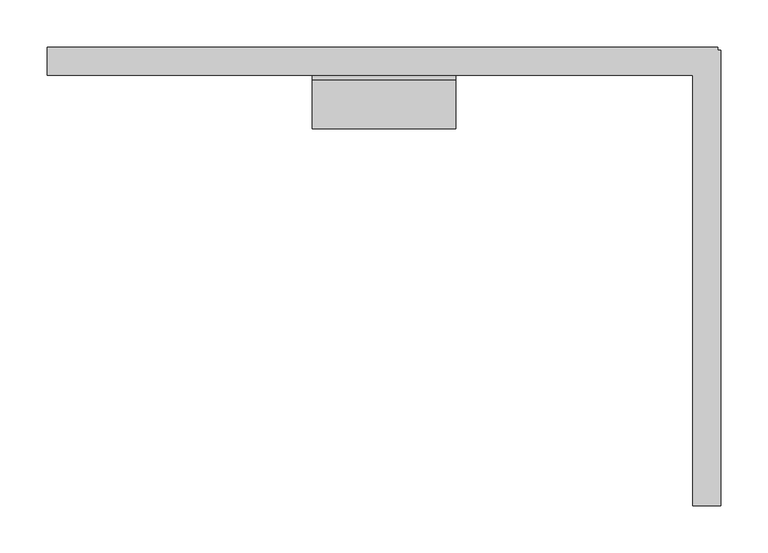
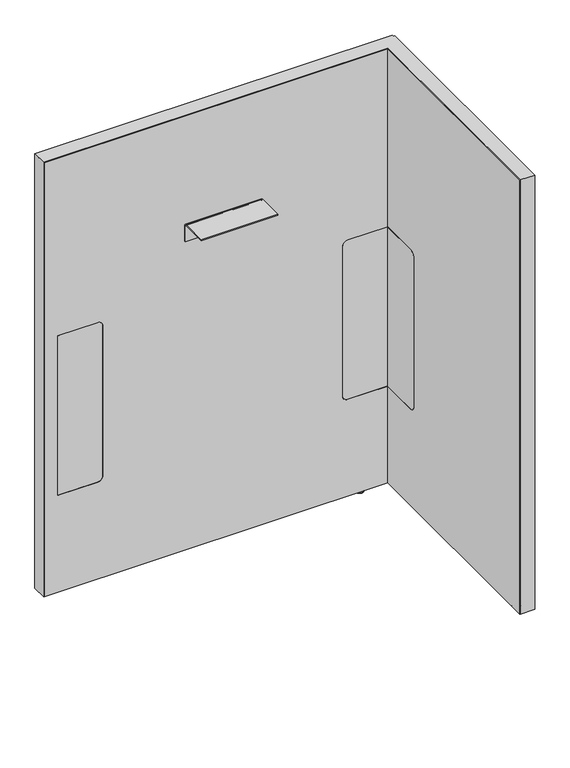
"""IFC4 building model written with IfcOpenShell, lengths in millimetres: furniture geometry, Steelcase - Answer Solution - Boundary Screen - L Return - Single Sided : 36H x 27W."""

from ifc_helpers import new_model, si_unit, point, frame, frame_2d, origin, place, context, project, spatial, polyline, circle_curve, ellipse_curve, trimmed, segment, composite_curve, outline, extrude, faceted_brep, source, transform, mapped, element, save
from ifc_brep_helpers import plane_surface, cylinder_surface, revolved_surface, advanced_brep


def furniture_8f06d528(model_context):
    return source(origin(), model_context, "Body", "SolidModel", [
        extrude(outline(composite_curve([segment(polyline([(-109.3501471, 549.6162029), (-29.0550397, 549.6162029), (-29.0550397, 213.7762137), (-109.3501471, 213.7762137)]), True, "CONTINUOUS"), segment(trimmed(circle_curve(frame_2d((-109.3501471, 223.9362137)), 10.16), [point((-109.3501471, 213.7762137))], [point((-119.5101471, 223.9362137))], False, "CARTESIAN"), True, "CONTINUOUS"), segment(polyline([(-119.5101471, 223.9362137), (-119.5101471, 539.4562029)]), True, "CONTINUOUS"), segment(trimmed(circle_curve(frame_2d((-109.3501471, 539.4562029)), 10.16), [point((-119.5101471, 539.4562029))], [point((-109.3501471, 549.6162029))], False, "CARTESIAN"), True, "CONTINUOUS")], self_intersect=False)), frame((915.6191891, 0.0, 0.0), z_axis=(1.0, 0.0, 0.0), x_axis=(0.0, 1.0, 0.0)), (0.0, 0.0, 1.0), 0.6401544),
        advanced_brep(
        [(930.4672074, -448.0136072, 0.0), (937.4216144, -448.0136072, 0.0), (923.5128003, -448.0136072, 0.0), (938.8762685, -448.0136072, 1.2700001), (922.0581463, -448.0136072, 1.2700001), (938.8762685, -448.0136072, 2.9673238), (922.0581463, -448.0136072, 2.9673238), (939.8427877, -448.0136072, 2.9673238), (921.091627, -448.0136072, 2.9673238), (939.8427877, -448.0136072, 9.9059849), (921.091627, -448.0136072, 9.9059849), (930.4672074, -448.0136072, 9.9059849)],
        [
            (0, 1),
            (1, 2, circle_curve(frame((930.4672074, -448.0136072, 0.0), z_axis=(0.0, 0.0, -1.0), x_axis=(1.0, 0.0, 0.0)), 6.9544071)),
            (2, 0),
            (2, 1, circle_curve(frame((930.4672074, -448.0136072, 0.0), z_axis=(0.0, 0.0, -1.0), x_axis=(1.0, 0.0, 0.0)), 6.9544071)),
            (1, 3, circle_curve(frame((937.5945484, -448.0136072, 1.2700001), z_axis=(0.0, -1.0, 0.0), x_axis=(0.0, 0.0, 1.0)), 1.2817201)),
            (3, 4, circle_curve(frame((930.4672074, -448.0136072, 1.2700001), z_axis=(0.0, 0.0, -1.0), x_axis=(1.0, 0.0, 0.0)), 8.4090611)),
            (4, 2, circle_curve(frame((923.3398663, -448.0136072, 1.2700001), z_axis=(0.0, -1.0, 0.0), x_axis=(0.0, 0.0, 1.0)), 1.2817201)),
            (4, 3, circle_curve(frame((930.4672074, -448.0136072, 1.2700001), z_axis=(0.0, 0.0, -1.0), x_axis=(1.0, 0.0, 0.0)), 8.4090611)),
            (3, 5),
            (5, 6, circle_curve(frame((930.4672074, -448.0136072, 2.9673238), z_axis=(0.0, 0.0, -1.0), x_axis=(1.0, 0.0, 0.0)), 8.4090611)),
            (6, 4),
            (6, 5, circle_curve(frame((930.4672074, -448.0136072, 2.9673238), z_axis=(0.0, 0.0, -1.0), x_axis=(1.0, 0.0, 0.0)), 8.4090611)),
            (5, 7),
            (7, 8, circle_curve(frame((930.4672074, -448.0136072, 2.9673238), z_axis=(0.0, 0.0, -1.0), x_axis=(1.0, 0.0, 0.0)), 9.3755804)),
            (8, 6),
            (8, 7, circle_curve(frame((930.4672074, -448.0136072, 2.9673238), z_axis=(0.0, 0.0, -1.0), x_axis=(1.0, 0.0, 0.0)), 9.3755804)),
            (7, 9),
            (9, 10, circle_curve(frame((930.4672074, -448.0136072, 9.9059849), z_axis=(0.0, 0.0, -1.0), x_axis=(1.0, 0.0, 0.0)), 9.3755804)),
            (10, 8),
            (10, 9, circle_curve(frame((930.4672074, -448.0136072, 9.9059849), z_axis=(0.0, 0.0, -1.0), x_axis=(1.0, 0.0, 0.0)), 9.3755804)),
            (9, 11),
            (11, 10),
        ],
        [
            plane_surface(frame((930.4672074, -448.0136072, 0.0), z_axis=(0.0, 0.0, -1.0), x_axis=(1.0, 0.0, 0.0))),
            revolved_surface(trimmed(ellipse_curve(frame((937.5945484, -448.0136072, 1.2700001), z_axis=(0.0, 1.0, 0.0), x_axis=(0.0, 0.0, 1.0)), 1.2817201, 1.2817201), [point((938.8762685, -448.0136072, 1.2700001))], [point((937.4216144, -448.0136072, 0.0))], True, "CARTESIAN"), (930.4672074, -448.0136072, 9.9059849), (0.0, 0.0, -1.0)),
            cylinder_surface(frame((930.4672074, -448.0136072, 9.9059849), z_axis=(0.0, 0.0, -1.0), x_axis=(1.0, 0.0, 0.0)), 8.4090611),
            plane_surface(frame((930.4672074, -448.0136072, 2.9673238), z_axis=(0.0, 0.0, -1.0), x_axis=(1.0, 0.0, 0.0))),
            cylinder_surface(frame((930.4672074, -448.0136072, 9.9059849), z_axis=(0.0, 0.0, -1.0), x_axis=(1.0, 0.0, 0.0)), 9.3755804),
            plane_surface(frame((930.4672074, -448.0136072, 9.9059849), z_axis=(0.0, 0.0, 1.0), x_axis=(1.0, 0.0, 0.0))),
        ],
        [
            (0, [[1, 2, 3]]),
            (0, [[-3, 4, -1]]),
            (1, [[-2, 5, 6, 7]]),
            (1, [[-4, -7, 8, -5]]),
            (2, [[-6, 9, 10, 11]]),
            (2, [[-8, -11, 12, -9]]),
            (3, [[-10, 13, 14, 15]]),
            (3, [[-12, -15, 16, -13]]),
            (4, [[-14, 17, 18, 19]]),
            (4, [[-16, -19, 20, -17]]),
            (5, [[-18, 21, 22]]),
            (5, [[-20, -22, -21]]),
        ],
    ),
        faceted_brep([(942.0531179, 0.0, 925.322), (942.0531179, 0.0, 9.9059849), (941.0621491, 0.0, 9.9059849), (941.0621491, 0.0, 924.342118), (230.8097779, 0.0, 924.342118), (230.8097779, 0.0, 9.9059849), (229.8191891, 0.0, 9.9059849), (229.8191891, 0.0, 925.322), (229.8191891, -29.6898332, 925.322), (229.8191891, -29.6898332, 9.9059849), (230.8097779, -29.6898332, 9.9059849), (230.8097779, -29.6898332, 924.342118), (915.6191891, -29.6898332, 924.342118), (915.6191891, -29.6898332, 925.322), (941.0621491, -29.6898332, 924.342118), (941.0621491, -29.6898332, 9.9059849), (942.0531179, -29.6898332, 9.9059849), (942.0531179, -29.6898332, 924.342118), (942.0531179, -3.2625916, 925.322), (942.0531179, -3.2625916, 9.9059849), (942.0531179, -4.252647, 9.9059849), (942.0531179, -4.252647, 924.342118), (945.3152256, -3.2625916, 9.9059849), (945.3152256, -4.252647, 9.9059849), (941.0621491, -4.252647, 9.9059849), (915.6191891, -4.252647, 9.9059849), (915.6191891, -3.2625916, 9.9059849), (941.0621491, -3.2625916, 9.9059849), (915.6191891, -486.8898332, 925.322), (945.3152256, -486.8898332, 925.322), (945.3152256, -3.2625916, 925.322), (941.0621491, -3.2625916, 924.342118), (941.0621491, -4.252647, 924.342118), (915.6191891, -3.2625916, 924.342118), (915.6191891, -4.252647, 924.342118), (945.3152256, -4.252647, 924.342118), (945.3152256, -485.899196, 924.342118), (915.6191891, -485.899196, 924.342118), (915.6191891, -485.899196, 9.9059849), (915.6191891, -486.8898332, 9.9059849), (945.3152256, -486.8898332, 9.9059849), (945.3152256, -485.899196, 9.9059849)], [[[0, 1, 2, 3, 4, 5, 6, 7]], [[8, 9, 10, 11, 12, 13]], [[14, 15, 16, 17]], [[1, 0, 18, 19]], [[17, 16, 20, 21]], [[2, 1, 19, 22, 23, 20, 16, 15, 24, 25, 26, 27]], [[7, 6, 9, 8]], [[0, 7, 8, 13, 28, 29, 30, 18]], [[3, 2, 27, 31]], [[15, 14, 32, 24]], [[4, 3, 31, 33, 34, 32, 14, 17, 21, 35, 36, 37, 12, 11]], [[5, 4, 11, 10]], [[6, 5, 10, 9]], [[26, 25, 34, 33]], [[37, 38, 39, 28, 13, 12]], [[29, 40, 41, 36, 35, 23, 22, 30]], [[27, 26, 33, 31]], [[30, 22, 19, 18]], [[34, 25, 24, 32]], [[23, 35, 21, 20]], [[38, 37, 36, 41]], [[39, 38, 41, 40]], [[28, 39, 40, 29]]]),
        extrude(outline(composite_curve([segment(polyline([(-86.8398151, 696.4680019), (-86.8398151, 698.5), (-34.9450855, 698.5)]), True, "CONTINUOUS"), segment(trimmed(circle_curve(frame_2d((-34.9450855, 693.2447477)), 5.2552523), [point((-34.9450855, 698.5))], [point((-29.6898332, 693.2447477))], False, "CARTESIAN"), True, "CONTINUOUS"), segment(polyline([(-29.6898332, 693.2447477), (-29.6898332, 660.4), (-31.7218162, 660.4), (-31.7218162, 693.0058743)]), True, "CONTINUOUS"), segment(trimmed(circle_curve(frame_2d((-35.1839438, 693.0058743)), 3.4621276), [point((-31.7218162, 693.0058743))], [point((-35.1839438, 696.4680019))], True, "CARTESIAN"), True, "CONTINUOUS"), segment(polyline([(-35.1839438, 696.4680019), (-86.8398151, 696.4680019)]), True, "CONTINUOUS")], self_intersect=False)), frame((511.3685899, 0.0, 0.0), z_axis=(1.0, 0.0, 0.0), x_axis=(0.0, 1.0, 0.0)), (0.0, 0.0, 1.0), 152.4000969),
        advanced_brep(
        [(868.1246853, -23.7588726, 9.9059849), (868.1246853, -5.9309607, 9.9059849), (868.1246853, -14.8449166, 9.9059849), (868.1246853, -23.7588726, 2.9673238), (868.1246853, -5.9309607, 2.9673238), (868.1246853, -22.7915354, 2.9673238), (868.1246853, -6.8982978, 2.9673238), (868.1246853, -22.7915354, 1.6569081), (868.1246853, -6.8982978, 1.6569081), (868.1246853, -21.1346274, 0.0), (868.1246853, -8.5552059, 0.0), (868.1246853, -14.8449166, 0.0)],
        [
            (0, 1, circle_curve(frame((868.1246853, -14.8449166, 9.9059849), z_axis=(0.0, 0.0, 1.0), x_axis=(0.0, 1.0, 0.0)), 8.913956)),
            (1, 2),
            (2, 0),
            (1, 0, circle_curve(frame((868.1246853, -14.8449166, 9.9059849), z_axis=(0.0, 0.0, 1.0), x_axis=(0.0, 1.0, 0.0)), 8.913956)),
            (3, 4, circle_curve(frame((868.1246853, -14.8449166, 2.9673238), z_axis=(0.0, 0.0, 1.0), x_axis=(0.0, 1.0, 0.0)), 8.913956)),
            (4, 1),
            (0, 3),
            (4, 3, circle_curve(frame((868.1246853, -14.8449166, 2.9673238), z_axis=(0.0, 0.0, 1.0), x_axis=(0.0, 1.0, 0.0)), 8.913956)),
            (5, 6, circle_curve(frame((868.1246853, -14.8449166, 2.9673238), z_axis=(0.0, 0.0, 1.0), x_axis=(0.0, 1.0, 0.0)), 7.9466188)),
            (6, 4),
            (3, 5),
            (6, 5, circle_curve(frame((868.1246853, -14.8449166, 2.9673238), z_axis=(0.0, 0.0, 1.0), x_axis=(0.0, 1.0, 0.0)), 7.9466188)),
            (7, 8, circle_curve(frame((868.1246853, -14.8449166, 1.6569081), z_axis=(0.0, 0.0, 1.0), x_axis=(0.0, 1.0, 0.0)), 7.9466188)),
            (8, 6),
            (5, 7),
            (8, 7, circle_curve(frame((868.1246853, -14.8449166, 1.6569081), z_axis=(0.0, 0.0, 1.0), x_axis=(0.0, 1.0, 0.0)), 7.9466188)),
            (9, 10, circle_curve(frame((868.1246853, -14.8449166, 0.0), z_axis=(0.0, 0.0, 1.0), x_axis=(0.0, 1.0, 0.0)), 6.2897107)),
            (10, 8, circle_curve(frame((868.1246853, -8.5552059, 1.6569081), z_axis=(1.0, 0.0, 0.0), x_axis=(0.0, 1.0, 0.0)), 1.6569081)),
            (7, 9, circle_curve(frame((868.1246853, -21.1346274, 1.6569081), z_axis=(1.0, 0.0, 0.0), x_axis=(0.0, -1.0, 0.0)), 1.6569081)),
            (10, 9, circle_curve(frame((868.1246853, -14.8449166, 0.0), z_axis=(0.0, 0.0, 1.0), x_axis=(0.0, 1.0, 0.0)), 6.2897107)),
            (11, 10),
            (9, 11),
        ],
        [
            plane_surface(frame((868.1246853, -14.8449166, 9.9059849), z_axis=(0.0, 0.0, 1.0), x_axis=(0.0, 1.0, 0.0))),
            cylinder_surface(frame((868.1246853, -14.8449166, 9.9059849), z_axis=(0.0, 0.0, -1.0), x_axis=(0.0, 1.0, 0.0)), 8.913956),
            plane_surface(frame((868.1246853, -14.8449166, 2.9673238), z_axis=(0.0, 0.0, -1.0), x_axis=(0.0, 1.0, 0.0))),
            cylinder_surface(frame((868.1246853, -14.8449166, 9.9059849), z_axis=(0.0, 0.0, -1.0), x_axis=(0.0, 1.0, 0.0)), 7.9466188),
            revolved_surface(trimmed(ellipse_curve(frame((868.1246853, -8.5552059, 1.6569081), z_axis=(-1.0, 0.0, 0.0), x_axis=(0.0, 1.0, 0.0)), 1.6569081, 1.6569081), [point((868.1246853, -6.8982978, 1.6569081))], [point((868.1246853, -8.5552059, 0.0))], True, "CARTESIAN"), (868.1246853, -14.8449166, 9.9059849), (0.0, 0.0, -1.0)),
            plane_surface(frame((868.1246853, -14.8449166, 0.0), z_axis=(0.0, 0.0, -1.0), x_axis=(0.0, 1.0, 0.0))),
        ],
        [
            (0, [[1, 2, 3]]),
            (0, [[4, -3, -2]]),
            (1, [[5, 6, -1, 7]]),
            (1, [[8, -7, -4, -6]]),
            (2, [[9, 10, -5, 11]]),
            (2, [[12, -11, -8, -10]]),
            (3, [[13, 14, -9, 15]]),
            (3, [[16, -15, -12, -14]]),
            (4, [[17, 18, -13, 19]]),
            (4, [[20, -19, -16, -18]]),
            (5, [[21, -17, 22]]),
            (5, [[-22, -20, -21]]),
        ],
    ),
        advanced_brep(
        [(230.8097779, 0.0, 924.342118), (941.0621491, 0.0, 924.342118), (941.0621491, 0.0, 9.9059849), (230.8097779, 0.0, 9.9059849), (347.9483813, -29.0550397, 539.4562029), (337.7883813, -29.0550397, 549.6162029), (258.1344836, -29.0550397, 549.6162029), (258.1344836, -29.0550397, 213.7762137), (337.7883813, -29.0550397, 213.7762137), (347.9483813, -29.0550397, 223.9362137), (916.2593435, -29.0550397, 213.7762137), (916.2593435, -29.0550397, 549.6162029), (835.7109268, -29.0550397, 549.6162029), (825.5509268, -29.0550397, 539.4562029), (825.5509268, -29.0550397, 223.9362137), (835.7109268, -29.0550397, 213.7762137), (230.8097779, -29.6898332, 924.342118), (230.8097779, -29.6898332, 9.9059849), (915.6191891, -29.6898332, 9.9059849), (915.6191891, -29.6898332, 213.7762137), (835.7109268, -29.6898332, 213.7762137), (825.5509268, -29.6898332, 223.9362137), (825.5509268, -29.6898332, 539.4562029), (835.7109268, -29.6898332, 549.6162029), (915.6191891, -29.6898332, 549.6162029), (915.6191891, -29.6898332, 924.342118), (337.7883813, -29.6898332, 549.6162029), (347.9483813, -29.6898332, 539.4562029), (347.9483813, -29.6898332, 223.9362137), (337.7883813, -29.6898332, 213.7762137), (258.1344836, -29.6898332, 213.7762137), (258.1344836, -29.6898332, 549.6162029), (941.0621491, -4.252647, 9.9059849), (945.3152256, -4.252647, 9.9059849), (945.3152256, -485.899196, 9.9059849), (915.6191891, -485.899196, 9.9059849), (941.0621491, -4.252647, 924.342118), (915.6191891, -485.899196, 924.342118), (945.3152256, -485.899196, 924.342118), (945.3152256, -4.252647, 924.342118), (916.2593435, -109.3501471, 549.6162029), (915.6191891, -109.3501471, 549.6162029), (916.2593435, -109.3501471, 213.7762137), (916.2593435, -119.5101471, 223.9362137), (916.2593435, -119.5101471, 539.4562029), (915.6191891, -109.3501471, 213.7762137), (915.6191891, -119.5101471, 539.4562029), (915.6191891, -119.5101471, 223.9362137)],
        [
            (0, 1),
            (1, 2),
            (2, 3),
            (3, 0),
            (4, 5, circle_curve(frame((337.7883813, -29.0550397, 539.4562029), z_axis=(0.0, -1.0, 0.0), x_axis=(0.0, 0.0, 1.0)), 10.16)),
            (5, 6),
            (6, 7),
            (7, 8),
            (8, 9, circle_curve(frame((337.7883813, -29.0550397, 223.9362137), z_axis=(0.0, -1.0, 0.0), x_axis=(0.0, 0.0, 1.0)), 10.16)),
            (9, 4),
            (10, 11),
            (11, 12),
            (12, 13, circle_curve(frame((835.7109268, -29.0550397, 539.4562029), z_axis=(0.0, -1.0, 0.0), x_axis=(0.0, 0.0, 1.0)), 10.16)),
            (13, 14),
            (14, 15, circle_curve(frame((835.7109268, -29.0550397, 223.9362137), z_axis=(0.0, -1.0, 0.0), x_axis=(0.0, 0.0, 1.0)), 10.16)),
            (15, 10),
            (16, 17),
            (17, 18),
            (18, 19),
            (19, 20),
            (20, 21, circle_curve(frame((835.7109268, -29.6898332, 223.9362137), z_axis=(0.0, 1.0, 0.0), x_axis=(0.0, 0.0, 1.0)), 10.16)),
            (21, 22),
            (22, 23, circle_curve(frame((835.7109268, -29.6898332, 539.4562029), z_axis=(0.0, 1.0, 0.0), x_axis=(0.0, 0.0, 1.0)), 10.16)),
            (23, 24),
            (24, 25),
            (25, 16),
            (26, 27, circle_curve(frame((337.7883813, -29.6898332, 539.4562029), z_axis=(0.0, 1.0, 0.0), x_axis=(0.0, 0.0, 1.0)), 10.16)),
            (27, 28),
            (28, 29, circle_curve(frame((337.7883813, -29.6898332, 223.9362137), z_axis=(0.0, 1.0, 0.0), x_axis=(0.0, 0.0, 1.0)), 10.16)),
            (29, 30),
            (30, 31),
            (31, 26),
            (16, 0),
            (3, 17),
            (2, 32),
            (32, 33),
            (33, 34),
            (34, 35),
            (35, 18),
            (1, 36),
            (36, 32),
            (25, 37),
            (37, 38),
            (38, 39),
            (39, 36),
            (26, 5),
            (4, 27),
            (9, 28),
            (8, 29),
            (7, 30),
            (6, 31),
            (11, 40),
            (40, 41),
            (41, 24),
            (23, 12),
            (42, 43, circle_curve(frame((916.2593435, -109.3501471, 223.9362137), z_axis=(-1.0, 0.0, 0.0), x_axis=(0.0, 1.0, 0.0)), 10.16)),
            (43, 44),
            (44, 40, circle_curve(frame((916.2593435, -109.3501471, 539.4562029), z_axis=(-1.0, 0.0, 0.0), x_axis=(0.0, 1.0, 0.0)), 10.16)),
            (10, 42),
            (15, 20),
            (19, 45),
            (45, 42),
            (14, 21),
            (13, 22),
            (35, 37),
            (41, 46, circle_curve(frame((915.6191891, -109.3501471, 539.4562029), z_axis=(1.0, 0.0, 0.0), x_axis=(0.0, 1.0, 0.0)), 10.16)),
            (46, 47),
            (47, 45, circle_curve(frame((915.6191891, -109.3501471, 223.9362137), z_axis=(1.0, 0.0, 0.0), x_axis=(0.0, 1.0, 0.0)), 10.16)),
            (38, 34),
            (33, 39),
            (44, 46),
            (43, 47),
        ],
        [
            plane_surface(frame((347.9483813, 0.0, 549.6162029), z_axis=(0.0, 1.0, 0.0), x_axis=(0.0, 0.0, -1.0))),
            plane_surface(frame((347.9483813, -29.0550397, 549.6162029), z_axis=(0.0, -1.0, 0.0), x_axis=(0.0, 0.0, 1.0))),
            plane_surface(frame((941.0621491, -29.6898332, 924.342118), z_axis=(0.0, -1.0, 0.0), x_axis=(-1.0, 0.0, 0.0))),
            plane_surface(frame((230.8097779, 0.0, 9.9059849), z_axis=(-1.0, 0.0, 0.0), x_axis=(0.0, -1.0, 0.0))),
            plane_surface(frame((941.0621491, 0.0, 9.9059849), z_axis=(0.0, 0.0, -1.0), x_axis=(0.0, -1.0, 0.0))),
            plane_surface(frame((941.0621491, 0.0, 924.342118), z_axis=(1.0, 0.0, 0.0), x_axis=(0.0, -1.0, 0.0))),
            plane_surface(frame((230.8097779, 0.0, 924.342118), z_axis=(0.0, 0.0, 1.0), x_axis=(0.0, -1.0, 0.0))),
            revolved_surface(polyline([(337.7883813, -29.6898332, 549.6162029), (337.7883813, -29.0550397, 549.6162029)]), (337.7883813, -29.6898332, 539.4562029), (0.0, -1.0, 0.0)),
            plane_surface(frame((347.9483813, 0.0, 223.9362137), z_axis=(-1.0, 0.0, 0.0), x_axis=(0.0, -1.0, 0.0))),
            revolved_surface(polyline([(337.7883813, -29.6898332, 234.0962137), (337.7883813, -29.0550397, 234.0962137)]), (337.7883813, -29.6898332, 223.9362137), (0.0, -1.0, 0.0)),
            plane_surface(frame((258.1344836, 0.0, 213.7762137), z_axis=(0.0, 0.0, 1.0), x_axis=(0.0, -1.0, 0.0))),
            plane_surface(frame((258.1344836, 0.0, 549.6162029), z_axis=(1.0, 0.0, 0.0), x_axis=(0.0, -1.0, 0.0))),
            plane_surface(frame((337.7883813, 0.0, 549.6162029), z_axis=(0.0, 0.0, -1.0), x_axis=(0.0, -1.0, 0.0))),
            plane_surface(frame((916.2593435, 0.0, 549.6162029), z_axis=(0.0, 0.0, -1.0), x_axis=(0.0, -1.0, 0.0))),
            plane_surface(frame((916.2593435, 0.0, 213.7762137), z_axis=(-1.0, 0.0, 0.0), x_axis=(0.0, -1.0, 0.0))),
            plane_surface(frame((835.7109268, 0.0, 213.7762137), z_axis=(0.0, 0.0, 1.0), x_axis=(0.0, -1.0, 0.0))),
            revolved_surface(polyline([(835.7109268, -29.6898332, 234.0962137), (835.7109268, -29.0550397, 234.0962137)]), (835.7109268, -29.6898332, 223.9362137), (0.0, -1.0, 0.0)),
            plane_surface(frame((825.5509268, 0.0, 539.4562029), z_axis=(1.0, 0.0, 0.0), x_axis=(0.0, -1.0, 0.0))),
            revolved_surface(polyline([(835.7109268, -29.6898332, 549.6162029), (835.7109268, -29.0550397, 549.6162029)]), (835.7109268, -29.6898332, 539.4562029), (0.0, -1.0, 0.0)),
            plane_surface(frame((915.6191891, -485.899196, 924.342118), z_axis=(-1.0, 0.0, 0.0), x_axis=(0.0, 0.0, 1.0))),
            plane_surface(frame((945.3152256, -485.899196, 924.342118), z_axis=(1.0, 0.0, 0.0), x_axis=(0.0, 0.0, -1.0))),
            plane_surface(frame((945.3152256, -4.252647, 9.9059849), z_axis=(0.0, 1.0, 0.0), x_axis=(-1.0, 0.0, 0.0))),
            plane_surface(frame((945.3152256, -485.899196, 924.342118), z_axis=(0.0, -1.0, 0.0), x_axis=(-1.0, 0.0, 0.0))),
            revolved_surface(polyline([(915.6191891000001, -99.1901471, 539.4562029), (916.2593435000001, -99.1901471, 539.4562029)]), (-340.6902705, -109.3501471, 539.4562029), (-1.0, 0.0, 0.0)),
            plane_surface(frame((945.3152256, -119.5101471, 223.9362137), z_axis=(0.0, 1.0, 0.0), x_axis=(-1.0, 0.0, 0.0))),
            revolved_surface(polyline([(915.6191891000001, -99.1901471, 223.9362137), (916.2593435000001, -99.1901471, 223.9362137)]), (-340.6902705, -109.3501471, 223.9362137), (-1.0, 0.0, 0.0)),
        ],
        [
            (0, [[1, 2, 3, 4]]),
            (1, [[5, 6, 7, 8, 9, 10]]),
            (1, [[11, 12, 13, 14, 15, 16]]),
            (2, [[17, 18, 19, 20, 21, 22, 23, 24, 25, 26], [27, 28, 29, 30, 31, 32]]),
            (3, [[-17, 33, -4, 34]]),
            (4, [[-3, 35, 36, 37, 38, 39, -18, -34]]),
            (5, [[-2, 40, 41, -35]]),
            (6, [[-1, -33, -26, 42, 43, 44, 45, -40]]),
            (7, [[-27, 46, -5, 47]]),
            (8, [[-28, -47, -10, 48]]),
            (9, [[-29, -48, -9, 49]]),
            (10, [[-30, -49, -8, 50]]),
            (11, [[-31, -50, -7, 51]]),
            (12, [[-32, -51, -6, -46]]),
            (13, [[52, 53, 54, -24, 55, -12]]),
            (14, [[56, 57, 58, -52, -11, 59]]),
            (15, [[-59, -16, 60, -20, 61, 62]]),
            (16, [[-21, -60, -15, 63]]),
            (17, [[-22, -63, -14, 64]]),
            (18, [[-23, -64, -13, -55]]),
            (19, [[65, -42, -25, -54, 66, 67, 68, -61, -19, -39]]),
            (20, [[69, -37, 70, -44]]),
            (21, [[-70, -36, -41, -45]]),
            (22, [[-65, -38, -69, -43]]),
            (23, [[-66, -53, -58, 71]]),
            (24, [[-67, -71, -57, 72]]),
            (25, [[-68, -72, -56, -62]]),
        ],
    ),
        extrude(outline(composite_curve([segment(polyline([(549.6162029, 337.7883813), (549.6162029, 258.1344836), (213.7762137, 258.1344836), (213.7762137, 337.7883813)]), True, "CONTINUOUS"), segment(trimmed(circle_curve(frame_2d((223.9362137, 337.7883813)), 10.16), [point((213.7762137, 337.7883813))], [point((223.9362137, 347.9483813))], False, "CARTESIAN"), True, "CONTINUOUS"), segment(polyline([(223.9362137, 347.9483813), (539.4562029, 347.9483813)]), True, "CONTINUOUS"), segment(trimmed(circle_curve(frame_2d((539.4562029, 337.7883813)), 10.16), [point((539.4562029, 347.9483813))], [point((549.6162029, 337.7883813))], False, "CARTESIAN"), True, "CONTINUOUS")], self_intersect=False)), frame((0.0, -29.6898332, 0.0), z_axis=(0.0, 1.0, 0.0), x_axis=(0.0, 0.0, 1.0)), (0.0, 0.0, 1.0), 0.6347935),
        extrude(outline(composite_curve([segment(trimmed(circle_curve(frame_2d((539.4562029, 835.7109268)), 10.16), [point((549.6162029, 835.7109268))], [point((539.4562029, 825.5509268))], False, "CARTESIAN"), True, "CONTINUOUS"), segment(polyline([(539.4562029, 825.5509268), (223.9362137, 825.5509268)]), True, "CONTINUOUS"), segment(trimmed(circle_curve(frame_2d((223.9362137, 835.7109268)), 10.16), [point((223.9362137, 825.5509268))], [point((213.7762137, 835.7109268))], False, "CARTESIAN"), True, "CONTINUOUS"), segment(polyline([(213.7762137, 835.7109268), (213.7762137, 915.6191891), (549.6162029, 915.6191891), (549.6162029, 835.7109268)]), True, "CONTINUOUS")], self_intersect=False)), frame((0.0, -29.6898332, 0.0), z_axis=(0.0, 1.0, 0.0), x_axis=(0.0, 0.0, 1.0)), (0.0, 0.0, 1.0), 0.6347935),
    ])


if __name__ == "__main__":
    model = new_model("IFC4")
    model_context = context("Model", 3, world=origin())
    ifc_project = project(units=[si_unit("LENGTHUNIT", "METRE", prefix="MILLI")], contexts=[model_context])
    site = spatial("IfcSite", under=ifc_project)
    building = spatial("IfcBuilding", under=site)
    placement = place(None, origin())
    furniture_shape = furniture_8f06d528(model_context)
    element("IfcFurniture", 1, ObjectType="Steelcase - Answer Solution - Boundary Screen - L Return - Single Sided : 36H x 27W", at=placement, inside=building, context=model_context, shape_type="MappedRepresentation", body=[
        mapped(furniture_shape, transform((0.0, 0.0, 0.0), x_axis=(1.0, 0.0, 0.0), y_axis=(0.0, 1.0, 0.0), z_axis=(0.0, 0.0, 1.0))),
    ])
    save(model, "model.ifc")
